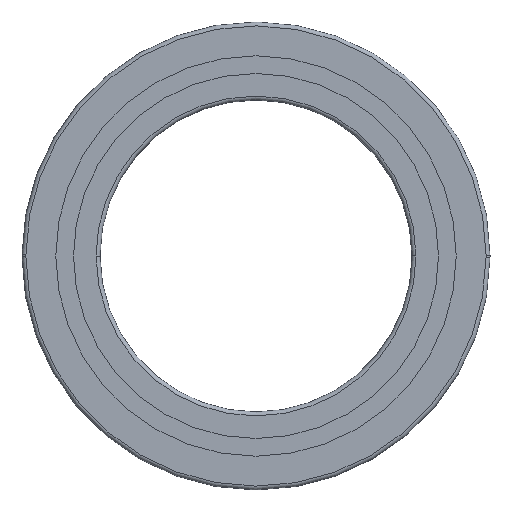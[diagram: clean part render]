
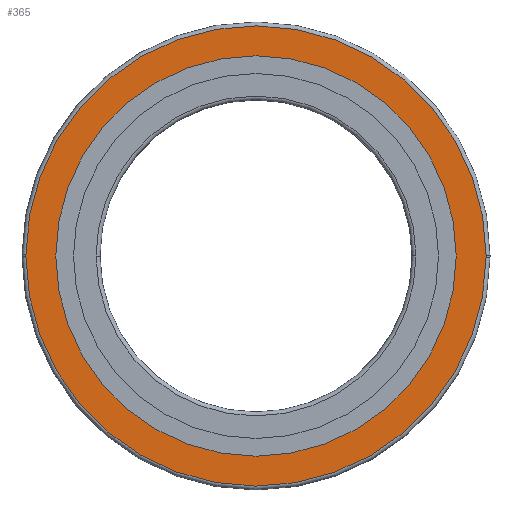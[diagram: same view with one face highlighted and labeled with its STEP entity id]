
A CAD part, front view. The second image highlights one B-rep face of the part: STEP entity #365.
In plain terms, the highlighted planar face has unit normal (0, -1, 0).
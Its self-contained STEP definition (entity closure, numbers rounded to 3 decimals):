
#365=ADVANCED_FACE('',(#915,#916),#917,.F.);
#395=VERTEX_POINT('',#951);
#487=VERTEX_POINT('',#1051);
#511=VERTEX_POINT('',#1080);
#539=EDGE_CURVE('',#785,#395,#1109,.T.);
#543=EDGE_CURVE('',#395,#785,#1113,.T.);
#591=VERTEX_POINT('',#1168);
#655=EDGE_CURVE('',#511,#591,#1241,.T.);
#663=EDGE_CURVE('',#685,#511,#1249,.T.);
#685=VERTEX_POINT('',#1274);
#705=EDGE_CURVE('',#487,#685,#1296,.T.);
#785=VERTEX_POINT('',#1385);
#821=EDGE_CURVE('',#591,#487,#1423,.T.);
#915=FACE_OUTER_BOUND('',#1521,.T.);
#916=FACE_BOUND('',#1522,.T.);
#917=PLANE('',#1523);
#951=CARTESIAN_POINT('',(-77.0,0.0,0.0));
#1051=CARTESIAN_POINT('',(88.498,0.0,-0.547));
#1080=CARTESIAN_POINT('',(-88.498,0.0,0.547));
#1109=CIRCLE('',#1764,77.0);
#1113=CIRCLE('',#1770,77.0);
#1168=CARTESIAN_POINT('',(-88.5,0.0,0.));
#1241=CIRCLE('',#1924,88.5);
#1249=CIRCLE('',#1936,88.5);
#1274=CARTESIAN_POINT('',(88.5,0.0,0.0));
#1296=CIRCLE('',#1993,88.5);
#1385=CARTESIAN_POINT('',(77.0,0.0,0.0));
#1423=CIRCLE('',#2157,88.5);
#1521=EDGE_LOOP('',(#2268,#2269,#2270,#2271));
#1522=EDGE_LOOP('',(#2272,#2273));
#1523=AXIS2_PLACEMENT_3D('',#2274,#2275,#2276);
#1764=AXIS2_PLACEMENT_3D('',#2500,#2501,#2502);
#1770=AXIS2_PLACEMENT_3D('',#2506,#2507,#2508);
#1924=AXIS2_PLACEMENT_3D('',#2698,#2699,#2700);
#1936=AXIS2_PLACEMENT_3D('',#2705,#2706,#2707);
#1993=AXIS2_PLACEMENT_3D('',#2775,#2776,#2777);
#2157=AXIS2_PLACEMENT_3D('',#2937,#2938,#2939);
#2268=ORIENTED_EDGE('',*,*,#663,.T.);
#2269=ORIENTED_EDGE('',*,*,#655,.T.);
#2270=ORIENTED_EDGE('',*,*,#821,.T.);
#2271=ORIENTED_EDGE('',*,*,#705,.T.);
#2272=ORIENTED_EDGE('',*,*,#543,.F.);
#2273=ORIENTED_EDGE('',*,*,#539,.F.);
#2274=CARTESIAN_POINT('',(0.0,0.0,0.0));
#2275=DIRECTION('',(0.0,1.0,0.0));
#2276=DIRECTION('',(1.0,0.0,-0.0));
#2500=CARTESIAN_POINT('',(0.0,0.0,0.0));
#2501=DIRECTION('',(0.0,-1.0,0.0));
#2502=DIRECTION('',(1.0,0.0,0.0));
#2506=CARTESIAN_POINT('',(0.0,0.0,0.0));
#2507=DIRECTION('',(0.0,-1.0,0.0));
#2508=DIRECTION('',(-1.0,0.0,0.0));
#2698=CARTESIAN_POINT('',(0.0,0.0,0.0));
#2699=DIRECTION('',(0.0,-1.0,0.0));
#2700=DIRECTION('',(1.0,0.0,0.0));
#2705=CARTESIAN_POINT('',(0.0,0.0,0.0));
#2706=DIRECTION('',(0.0,-1.0,0.0));
#2707=DIRECTION('',(1.0,0.0,0.0));
#2775=CARTESIAN_POINT('',(0.0,0.0,0.0));
#2776=DIRECTION('',(0.0,-1.0,0.0));
#2777=DIRECTION('',(-1.0,0.0,0.0));
#2937=CARTESIAN_POINT('',(0.0,0.0,0.0));
#2938=DIRECTION('',(0.0,-1.0,0.0));
#2939=DIRECTION('',(-1.0,0.0,0.0));
